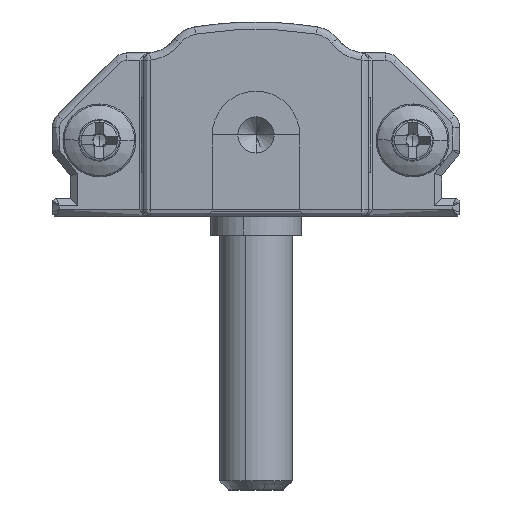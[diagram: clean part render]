
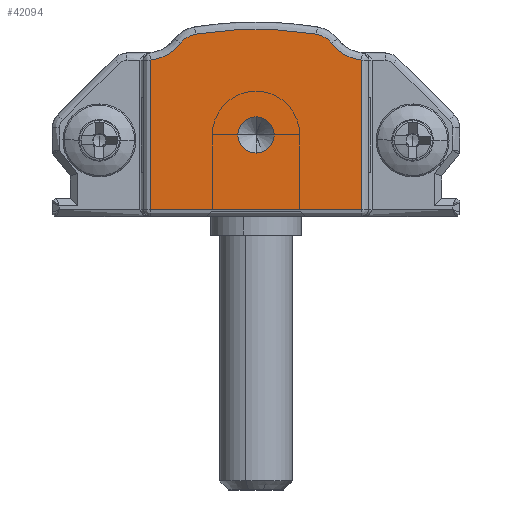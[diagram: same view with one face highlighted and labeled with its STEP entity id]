
A CAD part, front view. The second image highlights one B-rep face of the part: STEP entity #42094.
In plain terms, the highlighted planar face has unit normal (0, -1, 0).
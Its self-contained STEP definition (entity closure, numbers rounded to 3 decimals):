
#630 = VERTEX_POINT ( 'NONE', #45884 ) ;
#1783 = LINE ( 'NONE', #34989, #12719 ) ;
#2270 = DIRECTION ( 'NONE',  ( 0., 0., -1. ) ) ;
#2586 = EDGE_CURVE ( 'NONE', #19466, #18248, #14353, .T. ) ;
#2753 = DIRECTION ( 'NONE',  ( 0., 0., -1. ) ) ;
#2869 = EDGE_CURVE ( 'NONE', #27391, #34971, #25654, .T. ) ;
#3967 = AXIS2_PLACEMENT_3D ( 'NONE', #38652, #43322, #18342 ) ;
#4246 = AXIS2_PLACEMENT_3D ( 'NONE', #21186, #38675, #10420 ) ;
#5595 = FACE_BOUND ( 'NONE', #33515, .T. ) ;
#5834 = DIRECTION ( 'NONE',  ( 0., -1., 0. ) ) ;
#6828 = AXIS2_PLACEMENT_3D ( 'NONE', #31021, #44472, #30802 ) ;
#7419 = CIRCLE ( 'NONE', #11960, 20.676 ) ;
#7633 = DIRECTION ( 'NONE',  ( 0., 0., -1. ) ) ;
#7954 = ORIENTED_EDGE ( 'NONE', *, *, #44793, .F. ) ;
#8424 = ORIENTED_EDGE ( 'NONE', *, *, #32256, .T. ) ;
#8648 = ORIENTED_EDGE ( 'NONE', *, *, #45497, .T. ) ;
#8751 = DIRECTION ( 'NONE',  ( 0., -1., 0. ) ) ;
#8979 = CARTESIAN_POINT ( 'NONE',  ( 11.2, -15., -10.376 ) ) ;
#9337 = DIRECTION ( 'NONE',  ( 0., -1., 0. ) ) ;
#10035 = FACE_OUTER_BOUND ( 'NONE', #15140, .T. ) ;
#10282 = CARTESIAN_POINT ( 'NONE',  ( 11.2, -15., 5.5 ) ) ;
#10420 = DIRECTION ( 'NONE',  ( 0., 0., -1. ) ) ;
#10516 = VERTEX_POINT ( 'NONE', #20116 ) ;
#11128 = ORIENTED_EDGE ( 'NONE', *, *, #2869, .F. ) ;
#11409 = ORIENTED_EDGE ( 'NONE', *, *, #40651, .T. ) ;
#11541 = CARTESIAN_POINT ( 'NONE',  ( 11.2, -15., 3.5 ) ) ;
#11708 = DIRECTION ( 'NONE',  ( 0., 0., 1. ) ) ;
#11960 = AXIS2_PLACEMENT_3D ( 'NONE', #8979, #8751, #31478 ) ;
#12719 = VECTOR ( 'NONE', #42052, 1000. ) ;
#13541 = CIRCLE ( 'NONE', #6828, 1.3 ) ;
#13546 = PLANE ( 'NONE',  #22425 ) ;
#13828 = ORIENTED_EDGE ( 'NONE', *, *, #2586, .T. ) ;
#14353 = CIRCLE ( 'NONE', #45178, 1.3 ) ;
#15140 = EDGE_LOOP ( 'NONE', ( #36124, #22859, #8424, #32364, #13828, #46286, #11409, #8648 ) ) ;
#17031 = VERTEX_POINT ( 'NONE', #42950 ) ;
#18029 = CARTESIAN_POINT ( 'NONE',  ( 7.068, -15., 9.541 ) ) ;
#18056 = CARTESIAN_POINT ( 'NONE',  ( 17., -15., 0.4 ) ) ;
#18248 = VERTEX_POINT ( 'NONE', #18029 ) ;
#18342 = DIRECTION ( 'NONE',  ( 0., 0., -1. ) ) ;
#19466 = VERTEX_POINT ( 'NONE', #42948 ) ;
#20116 = CARTESIAN_POINT ( 'NONE',  ( 5.4, -15., 0.4 ) ) ;
#20586 = CARTESIAN_POINT ( 'NONE',  ( 22.15, -15., 3.606 ) ) ;
#21186 = CARTESIAN_POINT ( 'NONE',  ( 17.238, -15., 11. ) ) ;
#21318 = EDGE_CURVE ( 'NONE', #17031, #44407, #39631, .T. ) ;
#22425 = AXIS2_PLACEMENT_3D ( 'NONE', #20586, #9337, #2270 ) ;
#22859 = ORIENTED_EDGE ( 'NONE', *, *, #21318, .T. ) ;
#24071 = VECTOR ( 'NONE', #11708, 1000. ) ;
#24583 = CARTESIAN_POINT ( 'NONE',  ( 8.1, -15., 8.75 ) ) ;
#24816 = VERTEX_POINT ( 'NONE', #26964 ) ;
#25654 = CIRCLE ( 'NONE', #33209, 1. ) ;
#25934 = DIRECTION ( 'NONE',  ( 0., -1., 0. ) ) ;
#26836 = EDGE_CURVE ( 'NONE', #18248, #24816, #31785, .T. ) ;
#26964 = CARTESIAN_POINT ( 'NONE',  ( 5.4, -15., 8.612 ) ) ;
#27391 = VERTEX_POINT ( 'NONE', #10282 ) ;
#28017 = CARTESIAN_POINT ( 'NONE',  ( 5.4, -15., 0.4 ) ) ;
#28795 = DIRECTION ( 'NONE',  ( 0., -1., 0. ) ) ;
#29909 = VECTOR ( 'NONE', #42869, 1000. ) ;
#30802 = DIRECTION ( 'NONE',  ( 0., 0., -1. ) ) ;
#31021 = CARTESIAN_POINT ( 'NONE',  ( 14.3, -15., 8.75 ) ) ;
#31478 = DIRECTION ( 'NONE',  ( 0., 0., -1. ) ) ;
#31785 = CIRCLE ( 'NONE', #3967, 2.4 ) ;
#32256 = EDGE_CURVE ( 'NONE', #44407, #630, #13541, .T. ) ;
#32364 = ORIENTED_EDGE ( 'NONE', *, *, #45166, .T. ) ;
#32416 = EDGE_CURVE ( 'NONE', #43124, #17031, #42346, .T. ) ;
#32817 = CARTESIAN_POINT ( 'NONE',  ( 11.2, -15., 4.5 ) ) ;
#33209 = AXIS2_PLACEMENT_3D ( 'NONE', #46254, #28795, #43176 ) ;
#33360 = CARTESIAN_POINT ( 'NONE',  ( 17., -15., 8.612 ) ) ;
#33515 = EDGE_LOOP ( 'NONE', ( #7954, #11128 ) ) ;
#34971 = VERTEX_POINT ( 'NONE', #11541 ) ;
#34989 = CARTESIAN_POINT ( 'NONE',  ( 17., -15., 0.4 ) ) ;
#35583 = LINE ( 'NONE', #28017, #29909 ) ;
#36124 = ORIENTED_EDGE ( 'NONE', *, *, #32416, .T. ) ;
#38652 = CARTESIAN_POINT ( 'NONE',  ( 5.162, -15., 11. ) ) ;
#38675 = DIRECTION ( 'NONE',  ( 0., 1., 0. ) ) ;
#39631 = CIRCLE ( 'NONE', #4246, 2.4 ) ;
#40651 = EDGE_CURVE ( 'NONE', #24816, #10516, #35583, .T. ) ;
#40733 = CARTESIAN_POINT ( 'NONE',  ( 15.332, -15., 9.541 ) ) ;
#41973 = AXIS2_PLACEMENT_3D ( 'NONE', #32817, #25934, #7633 ) ;
#42052 = DIRECTION ( 'NONE',  ( 1., 0., 0. ) ) ;
#42094 = ADVANCED_FACE ( 'NONE', ( #10035, #5595 ), #13546, .T. ) ;
#42346 = LINE ( 'NONE', #33360, #24071 ) ;
#42869 = DIRECTION ( 'NONE',  ( 0., 0., -1. ) ) ;
#42948 = CARTESIAN_POINT ( 'NONE',  ( 7.892, -15., 10.034 ) ) ;
#42950 = CARTESIAN_POINT ( 'NONE',  ( 17., -15., 8.612 ) ) ;
#43124 = VERTEX_POINT ( 'NONE', #18056 ) ;
#43176 = DIRECTION ( 'NONE',  ( 0., 0., -1. ) ) ;
#43322 = DIRECTION ( 'NONE',  ( 0., 1., 0. ) ) ;
#43464 = CIRCLE ( 'NONE', #41973, 1. ) ;
#44407 = VERTEX_POINT ( 'NONE', #40733 ) ;
#44472 = DIRECTION ( 'NONE',  ( 0., -1., 0. ) ) ;
#44793 = EDGE_CURVE ( 'NONE', #34971, #27391, #43464, .T. ) ;
#45166 = EDGE_CURVE ( 'NONE', #630, #19466, #7419, .T. ) ;
#45178 = AXIS2_PLACEMENT_3D ( 'NONE', #24583, #5834, #2753 ) ;
#45497 = EDGE_CURVE ( 'NONE', #10516, #43124, #1783, .T. ) ;
#45884 = CARTESIAN_POINT ( 'NONE',  ( 14.508, -15., 10.034 ) ) ;
#46254 = CARTESIAN_POINT ( 'NONE',  ( 11.2, -15., 4.5 ) ) ;
#46286 = ORIENTED_EDGE ( 'NONE', *, *, #26836, .T. ) ;
